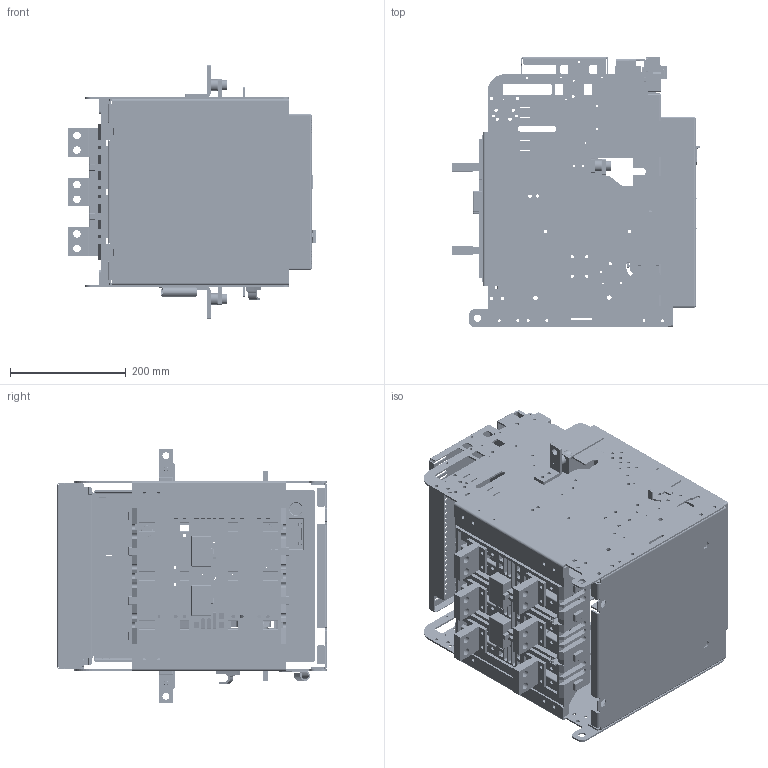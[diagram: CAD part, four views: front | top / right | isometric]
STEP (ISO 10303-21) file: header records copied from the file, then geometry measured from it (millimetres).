
FILE_DESCRIPTION((''),'2;1');
FILE_NAME('A163H_ASM','2017-01-31T',('HHI'),(''),'PRO/ENGINEER BY PARAMETRIC TECHNOLOGY CORPORATION, 2012453','PRO/ENGINEER BY PARAMETRIC TECHNOLOGY CORPORATION, 2012453','');
FILE_SCHEMA(('CONFIG_CONTROL_DESIGN'));
Products named in the file (33): MAIN_SC-DR-FRAME_L; MAIN_SC_DR_BASE_203; MAIN_SC-DR-FRAME_R; SC_TERMINAL_MOLD203; SC_CO_JACK_DFC_203; MAIN_SC-CONTROL_JACK-CRADLE; ACB-HIAN-REDRAW-BODY_SC_CONTROL; TERMINAL_A16HV; SC_CONTROL_JACK; SC_MAIN_FRONT_COVER20120324; SC_DR_DEVICE_COVER2; SC_DR_LOCK_PUSH_BUTTON; SC_MANUAL_POSITION_LOCK; SC-DR-INDICATOR_SAMPLE; DR_COVER_SAMPLE_ASM; MAIN_SC-OCR-COVER-U-DD-RE; MAIN_SC-OCR-PROTECTION-COVER-RE; MAIN_SC-OCR-LOWER-COVER-RE; OCR_COVER_SAMPLE_ASM; SC-CLOSE-BUTTON; SC-OPEN-BUTTON; N_CHARGE_HANDLE; COVER203_ASSY_ASM; U_ARC_SHIELD_203; SC-FIX-BLOCK-L; FIX_BODY_EXTRA; FIX_BLOCK_CRADLE; BOLT; FIX_BODY_ASM_L_ASM; SC-FIX-BLOCK-R; SC-FIX-BLOCK-SUP-R; FIX_BODY_ASM_R_ASM; A163H_ASM
Assembly tree (39 placements, depth 4):
  A163H_ASM
    MAIN_SC-DR-FRAME_L
    MAIN_SC_DR_BASE_203
    MAIN_SC-DR-FRAME_R
    SC_TERMINAL_MOLD203
    SC_CO_JACK_DFC_203
    MAIN_SC-CONTROL_JACK-CRADLE
    ACB-HIAN-REDRAW-BODY_SC_CONTROL
    TERMINAL_A16HV  x6
    COVER203_ASSY_ASM
      SC_CONTROL_JACK
      SC_MAIN_FRONT_COVER20120324
      DR_COVER_SAMPLE_ASM
        SC_DR_DEVICE_COVER2
        SC_DR_LOCK_PUSH_BUTTON
        SC_MANUAL_POSITION_LOCK
        SC-DR-INDICATOR_SAMPLE
      OCR_COVER_SAMPLE_ASM
        MAIN_SC-OCR-COVER-U-DD-RE
        MAIN_SC-OCR-PROTECTION-COVER-RE
        MAIN_SC-OCR-LOWER-COVER-RE
      SC-CLOSE-BUTTON
      SC-OPEN-BUTTON
      N_CHARGE_HANDLE
    U_ARC_SHIELD_203
    FIX_BODY_ASM_L_ASM
      SC-FIX-BLOCK-L
      FIX_BODY_EXTRA
      FIX_BLOCK_CRADLE
      BOLT
    FIX_BODY_ASM_R_ASM
      SC-FIX-BLOCK-R
      SC-FIX-BLOCK-SUP-R
      FIX_BLOCK_CRADLE
      BOLT
Bounding box: 428.03 x 466.35 x 440.1 mm (x, y, z)
Volume: 4324801.7 mm3; surface area: 2844719.7 mm2
Topology: 36 solids, 36 shells, 13372 faces, 39198 edges, 25649 vertices
Faces by surface type: plane 10647, cylinder 2229, extrusion 181, torus 162, sphere 60, bspline 56, cone 37
Entity records: 443033 total; most frequent: CARTESIAN_POINT 86353, ORIENTED_EDGE 77420, DIRECTION 68904, EDGE_CURVE 38710, VECTOR 33602, LINE 33421, VERTEX_POINT 25337, AXIS2_PLACEMENT_3D 17651
